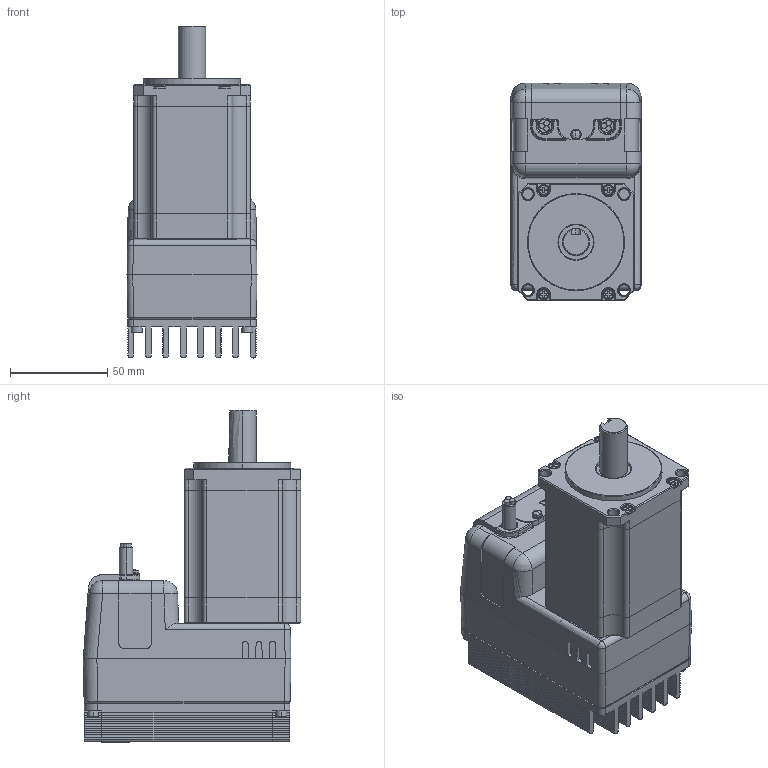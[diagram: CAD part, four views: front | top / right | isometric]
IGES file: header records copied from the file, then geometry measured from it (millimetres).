
Start section: SolidWorks IGES file using analytic representation for surfaces
Global section: file name: C:\Users\render\Desktop\CAD Archives\CM2-60A40A\CM2-60A40A.IGS; native system: SolidWorks 2009; preprocessor: SolidWorks 2009; author: render; date: 090722.132302; units: millimetre
Bounding box: 67 x 112 x 171.1 mm (x, y, z)
Surface area: 134949.6 mm2 (no closed solid volume)
Topology: 0 solids, 0 shells, 834 faces, 8471 edges, 8456 vertices
Faces by surface type: revolution 486, bspline 348
